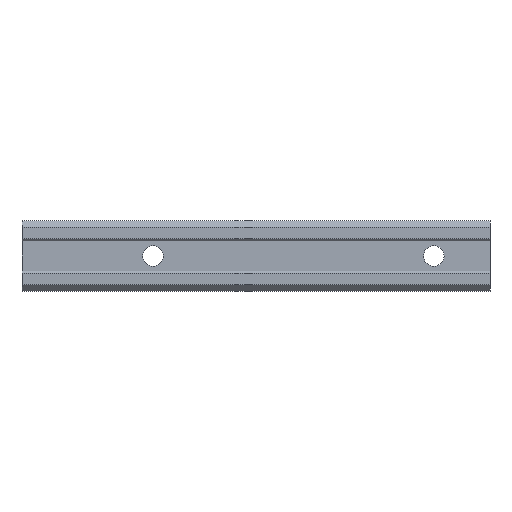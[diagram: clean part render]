
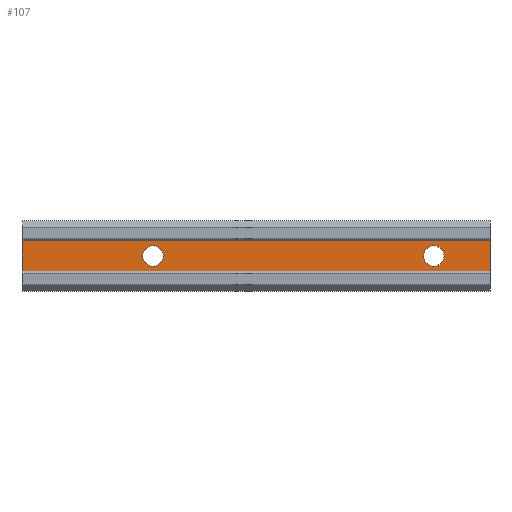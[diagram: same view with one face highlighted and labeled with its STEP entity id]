
A CAD part, front view. The second image highlights one B-rep face of the part: STEP entity #107.
In plain terms, the highlighted planar face has unit normal (0, -1, 0).
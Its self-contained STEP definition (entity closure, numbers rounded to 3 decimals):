
#107 = ADVANCED_FACE( '', ( #182, #183, #184 ), #185, .T. );
#182 = FACE_BOUND( '', #264, .T. );
#183 = FACE_BOUND( '', #265, .T. );
#184 = FACE_OUTER_BOUND( '', #266, .T. );
#185 = PLANE( '', #267 );
#264 = EDGE_LOOP( '', ( #506, #507 ) );
#265 = EDGE_LOOP( '', ( #508, #509 ) );
#266 = EDGE_LOOP( '', ( #510, #511, #512, #513 ) );
#267 = AXIS2_PLACEMENT_3D( '', #514, #515, #516 );
#506 = ORIENTED_EDGE( '', *, *, #612, .T. );
#507 = ORIENTED_EDGE( '', *, *, #611, .T. );
#508 = ORIENTED_EDGE( '', *, *, #616, .T. );
#509 = ORIENTED_EDGE( '', *, *, #603, .T. );
#510 = ORIENTED_EDGE( '', *, *, #687, .T. );
#511 = ORIENTED_EDGE( '', *, *, #688, .F. );
#512 = ORIENTED_EDGE( '', *, *, #689, .T. );
#513 = ORIENTED_EDGE( '', *, *, #685, .T. );
#514 = CARTESIAN_POINT( '', ( 0., 0.4, -3.25 ) );
#515 = DIRECTION( '', ( 0., -1., 0. ) );
#516 = DIRECTION( '', ( 0., 0., -1. ) );
#603 = EDGE_CURVE( '', #707, #711, #713, .T. );
#611 = EDGE_CURVE( '', #723, #727, #729, .T. );
#612 = EDGE_CURVE( '', #727, #723, #730, .T. );
#616 = EDGE_CURVE( '', #711, #707, #734, .T. );
#685 = EDGE_CURVE( '', #848, #846, #849, .T. );
#687 = EDGE_CURVE( '', #846, #851, #852, .T. );
#688 = EDGE_CURVE( '', #853, #851, #854, .T. );
#689 = EDGE_CURVE( '', #853, #848, #855, .T. );
#707 = VERTEX_POINT( '', #879 );
#711 = VERTEX_POINT( '', #884 );
#713 = CIRCLE( '', #887, 2.2 );
#723 = VERTEX_POINT( '', #899 );
#727 = VERTEX_POINT( '', #904 );
#729 = CIRCLE( '', #907, 2.2 );
#730 = CIRCLE( '', #908, 2.2 );
#734 = CIRCLE( '', #912, 2.2 );
#846 = VERTEX_POINT( '', #1084 );
#848 = VERTEX_POINT( '', #1087 );
#849 = LINE( '', #1088, #1089 );
#851 = VERTEX_POINT( '', #1092 );
#852 = LINE( '', #1093, #1094 );
#853 = VERTEX_POINT( '', #1095 );
#854 = LINE( '', #1096, #1097 );
#855 = LINE( '', #1098, #1099 );
#879 = CARTESIAN_POINT( '', ( 30.2, 0.4, 0. ) );
#884 = CARTESIAN_POINT( '', ( 25.8, 0.4, 0. ) );
#887 = AXIS2_PLACEMENT_3D( '', #1133, #1134, #1135 );
#899 = CARTESIAN_POINT( '', ( 90.2, 0.4, 0. ) );
#904 = CARTESIAN_POINT( '', ( 85.8, 0.4, 0. ) );
#907 = AXIS2_PLACEMENT_3D( '', #1149, #1150, #1151 );
#908 = AXIS2_PLACEMENT_3D( '', #1152, #1153, #1154 );
#912 = AXIS2_PLACEMENT_3D( '', #1164, #1165, #1166 );
#1084 = CARTESIAN_POINT( '', ( 100., 0.4, -3.25 ) );
#1087 = CARTESIAN_POINT( '', ( 0., 0.4, -3.25 ) );
#1088 = CARTESIAN_POINT( '', ( 0., 0.4, -3.25 ) );
#1089 = VECTOR( '', #1249, 1. );
#1092 = CARTESIAN_POINT( '', ( 100., 0.4, 3.25 ) );
#1093 = CARTESIAN_POINT( '', ( 100., 0.4, 3.25 ) );
#1094 = VECTOR( '', #1251, 1. );
#1095 = CARTESIAN_POINT( '', ( 0., 0.4, 3.25 ) );
#1096 = CARTESIAN_POINT( '', ( 0., 0.4, 3.25 ) );
#1097 = VECTOR( '', #1252, 1. );
#1098 = CARTESIAN_POINT( '', ( 0., 0.4, 3.25 ) );
#1099 = VECTOR( '', #1253, 1. );
#1133 = CARTESIAN_POINT( '', ( 28., 0.4, 0. ) );
#1134 = DIRECTION( '', ( 0., 1., 0. ) );
#1135 = DIRECTION( '', ( 1., 0., 0. ) );
#1149 = CARTESIAN_POINT( '', ( 88., 0.4, 0. ) );
#1150 = DIRECTION( '', ( 0., 1., 0. ) );
#1151 = DIRECTION( '', ( 1., 0., 0. ) );
#1152 = CARTESIAN_POINT( '', ( 88., 0.4, 0. ) );
#1153 = DIRECTION( '', ( 0., 1., 0. ) );
#1154 = DIRECTION( '', ( 1., 0., 0. ) );
#1164 = CARTESIAN_POINT( '', ( 28., 0.4, 0. ) );
#1165 = DIRECTION( '', ( 0., 1., 0. ) );
#1166 = DIRECTION( '', ( 1., 0., 0. ) );
#1249 = DIRECTION( '', ( 1., 0., 0. ) );
#1251 = DIRECTION( '', ( 0., 0., 1. ) );
#1252 = DIRECTION( '', ( 1., 0., 0. ) );
#1253 = DIRECTION( '', ( 0., 0., -1. ) );
